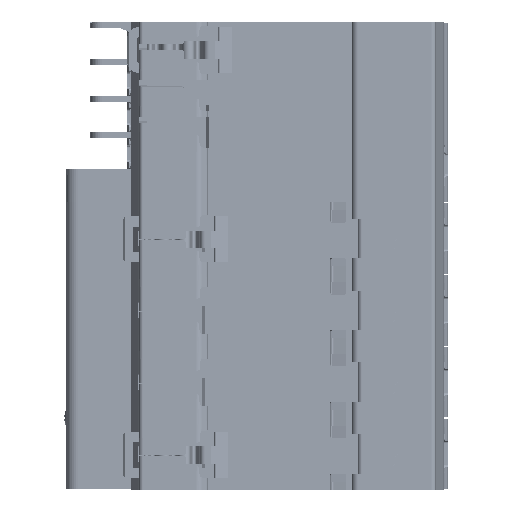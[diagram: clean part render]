
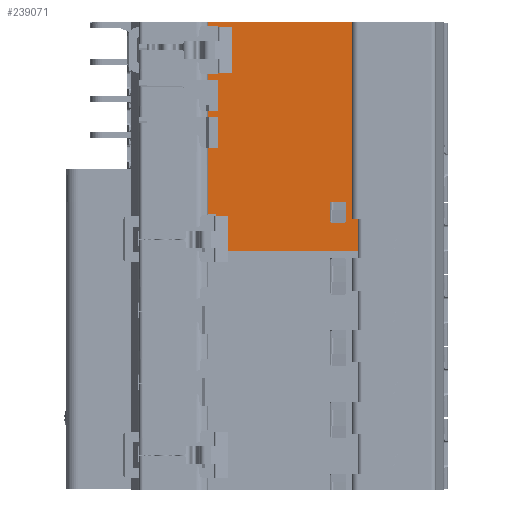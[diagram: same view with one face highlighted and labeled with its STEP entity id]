
A CAD part, front view. The second image highlights one B-rep face of the part: STEP entity #239071.
In plain terms, the highlighted planar face has unit normal (0, -1, 0).
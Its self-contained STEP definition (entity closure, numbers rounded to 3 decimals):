
#56581=DIRECTION('',(1.,0.,0.));
#56582=VECTOR('',#56581,0.789);
#56583=CARTESIAN_POINT('',(4.8,-37.,-15.45));
#56584=LINE('',#56583,#56582);
#56585=DIRECTION('',(0.,0.,1.));
#56586=VECTOR('',#56585,0.528);
#56587=CARTESIAN_POINT('',(4.8,-37.,-15.45));
#56588=LINE('',#56587,#56586);
#56589=DIRECTION('',(-1.,0.,0.));
#56590=VECTOR('',#56589,2.);
#56591=CARTESIAN_POINT('',(4.8,-37.,-14.922));
#56592=LINE('',#56591,#56590);
#56593=DIRECTION('',(0.,0.,1.));
#56594=VECTOR('',#56593,7.5);
#56595=CARTESIAN_POINT('',(5.4,-37.,1.5));
#56596=LINE('',#56595,#56594);
#56597=DIRECTION('',(0.,0.,1.));
#56598=VECTOR('',#56597,1.5);
#56599=CARTESIAN_POINT('',(2.8,-37.,9.));
#56600=LINE('',#56599,#56598);
#56601=DIRECTION('',(0.,0.,1.));
#56602=VECTOR('',#56601,7.5);
#56603=CARTESIAN_POINT('',(5.4,-37.,10.5));
#56604=LINE('',#56603,#56602);
#56605=DIRECTION('',(0.,0.,1.));
#56606=VECTOR('',#56605,1.5);
#56607=CARTESIAN_POINT('',(2.8,-37.,18.));
#56608=LINE('',#56607,#56606);
#56609=DIRECTION('',(1.,0.,0.));
#56610=VECTOR('',#56609,0.508);
#56611=CARTESIAN_POINT('',(5.4,-37.,19.85));
#56612=LINE('',#56611,#56610);
#56613=DIRECTION('',(0.,0.,-1.));
#56614=VECTOR('',#56613,11.3);
#56615=CARTESIAN_POINT('',(5.908,-37.,31.15));
#56616=LINE('',#56615,#56614);
#56617=DIRECTION('',(1.,0.,0.));
#56618=VECTOR('',#56617,0.508);
#56619=CARTESIAN_POINT('',(5.4,-37.,31.15));
#56620=LINE('',#56619,#56618);
#56621=DIRECTION('',(-1.,0.,0.));
#56622=VECTOR('',#56621,2.6);
#56623=CARTESIAN_POINT('',(5.4,-37.,31.5));
#56624=LINE('',#56623,#56622);
#56625=DIRECTION('',(0.,0.,1.));
#56626=VECTOR('',#56625,0.9);
#56627=CARTESIAN_POINT('',(2.8,-37.,31.5));
#56628=LINE('',#56627,#56626);
#56629=DIRECTION('',(1.,0.,0.));
#56630=VECTOR('',#56629,37.);
#56631=CARTESIAN_POINT('',(2.8,-37.,32.4));
#56632=LINE('',#56631,#56630);
#56633=DIRECTION('',(-1.,0.,0.));
#56634=VECTOR('',#56633,34.211);
#56635=CARTESIAN_POINT('',(39.8,-37.,-23.85));
#56636=LINE('',#56635,#56634);
#56637=DIRECTION('',(0.,0.,1.));
#56638=VECTOR('',#56637,8.4);
#56639=CARTESIAN_POINT('',(5.589,-37.,-23.85));
#56640=LINE('',#56639,#56638);
#56641=DIRECTION('',(-1.,0.,0.));
#56642=VECTOR('',#56641,4.062);
#56643=CARTESIAN_POINT('',(36.917,-37.,-12.));
#56644=LINE('',#56643,#56642);
#56645=DIRECTION('',(0.,0.,1.));
#56646=VECTOR('',#56645,4.5);
#56647=CARTESIAN_POINT('',(36.917,-37.,-16.5));
#56648=LINE('',#56647,#56646);
#57188=DIRECTION('',(0.,0.,-1.));
#57189=VECTOR('',#57188,16.422);
#57190=CARTESIAN_POINT('',(2.8,-37.,1.5));
#57191=LINE('',#57190,#57189);
#57204=DIRECTION('',(-1.,0.,0.));
#57205=VECTOR('',#57204,2.6);
#57206=CARTESIAN_POINT('',(5.4,-37.,1.5));
#57207=LINE('',#57206,#57205);
#57276=DIRECTION('',(1.,0.,0.));
#57277=VECTOR('',#57276,2.6);
#57278=CARTESIAN_POINT('',(2.8,-37.,9.));
#57279=LINE('',#57278,#57277);
#57390=DIRECTION('',(-1.,0.,0.));
#57391=VECTOR('',#57390,2.6);
#57392=CARTESIAN_POINT('',(5.4,-37.,10.5));
#57393=LINE('',#57392,#57391);
#57470=DIRECTION('',(1.,0.,0.));
#57471=VECTOR('',#57470,2.6);
#57472=CARTESIAN_POINT('',(2.8,-37.,18.));
#57473=LINE('',#57472,#57471);
#57580=DIRECTION('',(-1.,0.,0.));
#57581=VECTOR('',#57580,2.6);
#57582=CARTESIAN_POINT('',(5.4,-37.,19.5));
#57583=LINE('',#57582,#57581);
#57855=DIRECTION('',(0.,0.,-1.));
#57856=VECTOR('',#57855,0.35);
#57857=CARTESIAN_POINT('',(5.4,-37.,19.85));
#57858=LINE('',#57857,#57856);
#57859=DIRECTION('',(0.,0.,-1.));
#57860=VECTOR('',#57859,0.35);
#57861=CARTESIAN_POINT('',(5.4,-37.,31.5));
#57862=LINE('',#57861,#57860);
#59082=DIRECTION('',(0.,0.,1.));
#59083=VECTOR('',#59082,56.25);
#59084=CARTESIAN_POINT('',(39.8,-37.,-23.85));
#59085=LINE('',#59084,#59083);
#60168=CARTESIAN_POINT('',(36.917,-37.,-16.5));
#60169=CARTESIAN_POINT('',(36.917,-37.,-16.668));
#60170=CARTESIAN_POINT('',(36.788,-37.,-16.875));
#60171=CARTESIAN_POINT('',(36.578,-37.,-17.));
#60172=CARTESIAN_POINT('',(36.41,-37.,-17.));
#60178=DIRECTION('',(-1.,0.,0.));
#60179=VECTOR('',#60178,3.046);
#60180=CARTESIAN_POINT('',(36.41,-37.,-17.));
#60181=LINE('',#60180,#60179);
#60190=CARTESIAN_POINT('',(33.363,-37.,-17.));
#60191=CARTESIAN_POINT('',(33.195,-37.,-17.));
#60192=CARTESIAN_POINT('',(32.985,-37.,-16.875));
#60193=CARTESIAN_POINT('',(32.856,-37.,-16.668));
#60194=CARTESIAN_POINT('',(32.856,-37.,-16.5));
#60210=DIRECTION('',(0.,0.,1.));
#60211=VECTOR('',#60210,4.5);
#60212=CARTESIAN_POINT('',(32.856,-37.,-16.5));
#60213=LINE('',#60212,#60211);
#132566=CARTESIAN_POINT('',(5.4,-37.,1.5));
#132567=CARTESIAN_POINT('',(2.8,-37.,1.5));
#132568=VERTEX_POINT('',#132566);
#132569=VERTEX_POINT('',#132567);
#133435=CARTESIAN_POINT('',(2.8,-37.,9.));
#133436=VERTEX_POINT('',#133435);
#133530=CARTESIAN_POINT('',(2.8,-37.,10.5));
#133531=VERTEX_POINT('',#133530);
#133532=CARTESIAN_POINT('',(5.4,-37.,10.5));
#133533=VERTEX_POINT('',#133532);
#133968=CARTESIAN_POINT('',(5.4,-37.,9.));
#133969=VERTEX_POINT('',#133968);
#134024=CARTESIAN_POINT('',(2.8,-37.,18.));
#134025=VERTEX_POINT('',#134024);
#134121=CARTESIAN_POINT('',(5.4,-37.,19.5));
#134122=VERTEX_POINT('',#134121);
#134123=CARTESIAN_POINT('',(2.8,-37.,19.5));
#134124=VERTEX_POINT('',#134123);
#134513=CARTESIAN_POINT('',(5.4,-37.,18.));
#134514=VERTEX_POINT('',#134513);
#135817=CARTESIAN_POINT('',(39.8,-37.,32.4));
#135818=VERTEX_POINT('',#135817);
#135819=CARTESIAN_POINT('',(2.8,-37.,32.4));
#135820=VERTEX_POINT('',#135819);
#135927=CARTESIAN_POINT('',(2.8,-37.,31.5));
#135928=VERTEX_POINT('',#135927);
#135929=CARTESIAN_POINT('',(5.4,-37.,31.5));
#135930=VERTEX_POINT('',#135929);
#139415=CARTESIAN_POINT('',(5.4,-37.,31.15));
#139416=CARTESIAN_POINT('',(5.908,-37.,31.15));
#139417=VERTEX_POINT('',#139415);
#139418=VERTEX_POINT('',#139416);
#139419=CARTESIAN_POINT('',(5.4,-37.,19.85));
#139420=CARTESIAN_POINT('',(5.908,-37.,19.85));
#139421=VERTEX_POINT('',#139419);
#139422=VERTEX_POINT('',#139420);
#164889=CARTESIAN_POINT('',(2.8,-37.,-14.922));
#164890=VERTEX_POINT('',#164889);
#164891=CARTESIAN_POINT('',(4.8,-37.,-14.922));
#164892=VERTEX_POINT('',#164891);
#165395=CARTESIAN_POINT('',(39.8,-37.,-23.85));
#165397=VERTEX_POINT('',#165395);
#165430=CARTESIAN_POINT('',(36.41,-37.,-17.));
#165431=VERTEX_POINT('',#165430);
#165432=CARTESIAN_POINT('',(33.363,-37.,-17.));
#165433=VERTEX_POINT('',#165432);
#165434=CARTESIAN_POINT('',(36.917,-37.,-16.5));
#165435=VERTEX_POINT('',#165434);
#165458=CARTESIAN_POINT('',(32.856,-37.,-16.5));
#165459=VERTEX_POINT('',#165458);
#166205=CARTESIAN_POINT('',(36.917,-37.,-12.));
#166207=VERTEX_POINT('',#166205);
#166210=CARTESIAN_POINT('',(32.856,-37.,-12.));
#166212=VERTEX_POINT('',#166210);
#167154=CARTESIAN_POINT('',(4.8,-37.,-15.45));
#167155=CARTESIAN_POINT('',(5.589,-37.,-15.45));
#167156=VERTEX_POINT('',#167154);
#167157=VERTEX_POINT('',#167155);
#167158=CARTESIAN_POINT('',(5.589,-37.,-23.85));
#167159=VERTEX_POINT('',#167158);
#239005=CARTESIAN_POINT('',(2.8,-37.,0.));
#239006=DIRECTION('',(0.,-1.,0.));
#239007=DIRECTION('',(1.,0.,0.));
#239008=AXIS2_PLACEMENT_3D('',#239005,#239006,#239007);
#239009=PLANE('',#239008);
#239010=ORIENTED_EDGE('',*,*,#238579,.F.);
#239012=ORIENTED_EDGE('',*,*,#239011,.T.);
#239014=ORIENTED_EDGE('',*,*,#239013,.T.);
#239016=ORIENTED_EDGE('',*,*,#239015,.F.);
#239018=ORIENTED_EDGE('',*,*,#239017,.F.);
#239020=ORIENTED_EDGE('',*,*,#239019,.T.);
#239022=ORIENTED_EDGE('',*,*,#239021,.F.);
#239024=ORIENTED_EDGE('',*,*,#239023,.T.);
#239026=ORIENTED_EDGE('',*,*,#239025,.F.);
#239028=ORIENTED_EDGE('',*,*,#239027,.T.);
#239030=ORIENTED_EDGE('',*,*,#239029,.F.);
#239032=ORIENTED_EDGE('',*,*,#239031,.T.);
#239034=ORIENTED_EDGE('',*,*,#239033,.F.);
#239036=ORIENTED_EDGE('',*,*,#239035,.F.);
#239038=ORIENTED_EDGE('',*,*,#239037,.T.);
#239040=ORIENTED_EDGE('',*,*,#239039,.F.);
#239042=ORIENTED_EDGE('',*,*,#239041,.F.);
#239044=ORIENTED_EDGE('',*,*,#239043,.F.);
#239046=ORIENTED_EDGE('',*,*,#239045,.T.);
#239048=ORIENTED_EDGE('',*,*,#239047,.T.);
#239050=ORIENTED_EDGE('',*,*,#239049,.T.);
#239052=ORIENTED_EDGE('',*,*,#239051,.F.);
#239053=ORIENTED_EDGE('',*,*,#238930,.T.);
#239054=ORIENTED_EDGE('',*,*,#238993,.T.);
#239055=EDGE_LOOP('',(#239010,#239012,#239014,#239016,#239018,#239020,#239022,
#239024,#239026,#239028,#239030,#239032,#239034,#239036,#239038,#239040,#239042,
#239044,#239046,#239048,#239050,#239052,#239053,#239054));
#239056=FACE_OUTER_BOUND('',#239055,.F.);
#239058=ORIENTED_EDGE('',*,*,#239057,.T.);
#239060=ORIENTED_EDGE('',*,*,#239059,.F.);
#239062=ORIENTED_EDGE('',*,*,#239061,.F.);
#239064=ORIENTED_EDGE('',*,*,#239063,.F.);
#239066=ORIENTED_EDGE('',*,*,#239065,.F.);
#239068=ORIENTED_EDGE('',*,*,#239067,.T.);
#239069=EDGE_LOOP('',(#239058,#239060,#239062,#239064,#239066,#239068));
#239070=FACE_BOUND('',#239069,.F.);
#239071=ADVANCED_FACE('',(#239056,#239070),#239009,.T.);
#60173=B_SPLINE_CURVE_WITH_KNOTS('',3,(#60168,#60169,#60170,#60171,#60172),
.UNSPECIFIED.,.F.,.F.,(4,1,4),(0.,0.5,1.),.UNSPECIFIED.);
#60195=B_SPLINE_CURVE_WITH_KNOTS('',3,(#60190,#60191,#60192,#60193,#60194),
.UNSPECIFIED.,.F.,.F.,(4,1,4),(0.,0.5,1.),.UNSPECIFIED.);
#238579=EDGE_CURVE('',#167156,#167157,#56584,.T.);
#238930=EDGE_CURVE('',#165397,#167159,#56636,.T.);
#238993=EDGE_CURVE('',#167159,#167157,#56640,.T.);
#239011=EDGE_CURVE('',#167156,#164892,#56588,.T.);
#239013=EDGE_CURVE('',#164892,#164890,#56592,.T.);
#239015=EDGE_CURVE('',#132569,#164890,#57191,.T.);
#239017=EDGE_CURVE('',#132568,#132569,#57207,.T.);
#239019=EDGE_CURVE('',#132568,#133969,#56596,.T.);
#239021=EDGE_CURVE('',#133436,#133969,#57279,.T.);
#239023=EDGE_CURVE('',#133436,#133531,#56600,.T.);
#239025=EDGE_CURVE('',#133533,#133531,#57393,.T.);
#239027=EDGE_CURVE('',#133533,#134514,#56604,.T.);
#239029=EDGE_CURVE('',#134025,#134514,#57473,.T.);
#239031=EDGE_CURVE('',#134025,#134124,#56608,.T.);
#239033=EDGE_CURVE('',#134122,#134124,#57583,.T.);
#239035=EDGE_CURVE('',#139421,#134122,#57858,.T.);
#239037=EDGE_CURVE('',#139421,#139422,#56612,.T.);
#239039=EDGE_CURVE('',#139418,#139422,#56616,.T.);
#239041=EDGE_CURVE('',#139417,#139418,#56620,.T.);
#239043=EDGE_CURVE('',#135930,#139417,#57862,.T.);
#239045=EDGE_CURVE('',#135930,#135928,#56624,.T.);
#239047=EDGE_CURVE('',#135928,#135820,#56628,.T.);
#239049=EDGE_CURVE('',#135820,#135818,#56632,.T.);
#239051=EDGE_CURVE('',#165397,#135818,#59085,.T.);
#239057=EDGE_CURVE('',#166207,#166212,#56644,.T.);
#239059=EDGE_CURVE('',#165459,#166212,#60213,.T.);
#239061=EDGE_CURVE('',#165433,#165459,#60195,.T.);
#239063=EDGE_CURVE('',#165431,#165433,#60181,.T.);
#239065=EDGE_CURVE('',#165435,#165431,#60173,.T.);
#239067=EDGE_CURVE('',#165435,#166207,#56648,.T.);
